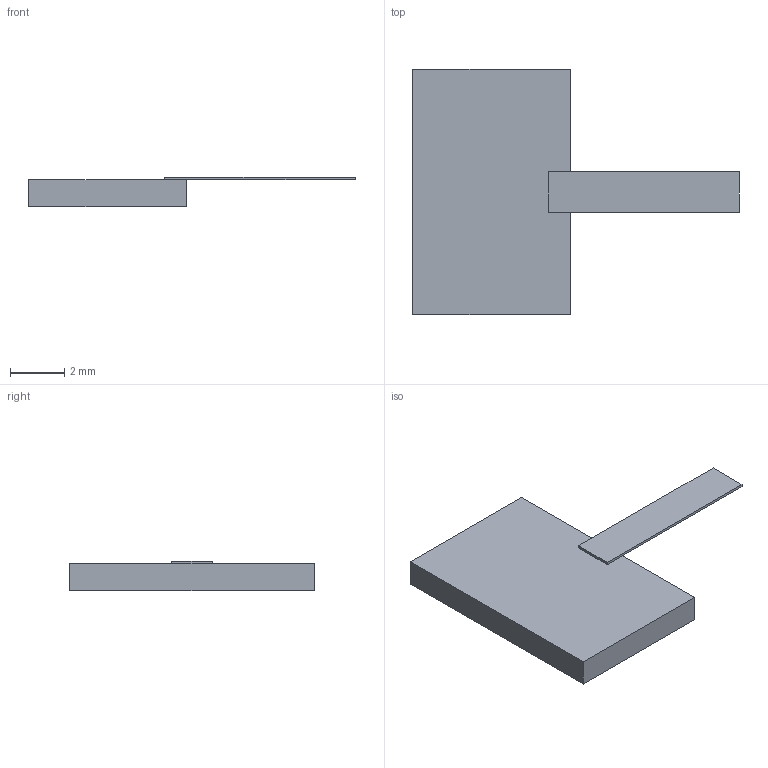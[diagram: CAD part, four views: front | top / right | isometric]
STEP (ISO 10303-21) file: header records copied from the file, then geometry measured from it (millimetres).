
FILE_DESCRIPTION(('STEP AP203'), '1');
FILE_NAME('P1-170-100-27', '', ('UNSPECIFIED'), ('UNSPECIFIED'), 'ASCON STEP Converter 1.6', 'ASCON Math Kernel', '');
FILE_SCHEMA(('CONFIG_CONTROL_DESIGN'));
Length unit declared in the file: millimetre
Bounding box: 12 x 9 x 1.1 mm (x, y, z)
Volume: 53.3 mm3; surface area: 154.3 mm2
Topology: 1 solids, 1 shells, 12 faces, 28 edges, 18 vertices
Faces by surface type: plane 12
Entity records: 476 total; most frequent: CARTESIAN_POINT 59, ORIENTED_EDGE 56, DIRECTION 54, EDGE_CURVE 28, LINE 28, VECTOR 28, VERTEX_POINT 18, AXIS2_PLACEMENT_3D 13
